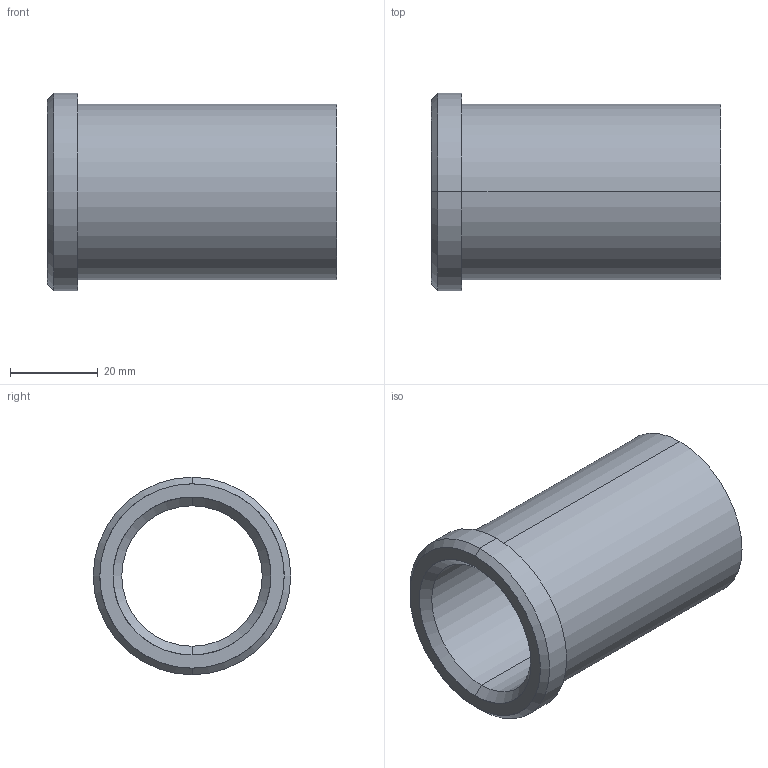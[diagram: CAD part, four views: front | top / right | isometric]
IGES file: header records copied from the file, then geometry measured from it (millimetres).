
Start section: START RECORD GO HERE.
Global section: file name: 353-32X66.igs; native system: DASSAULT SYSTEMES CATIA V5 R20 - www.3ds.com; preprocessor: CATIA Version 5 Release 20 ; author: Utente; organization: NB04-ASUS; date: 20210512.205524; units: millimetre
Bounding box: 66 x 45 x 45 mm (x, y, z)
Surface area: 16286.9 mm2 (no closed solid volume)
Topology: 0 solids, 0 shells, 15 faces, 96 edges, 96 vertices
Faces by surface type: revolution 12, plane 3
